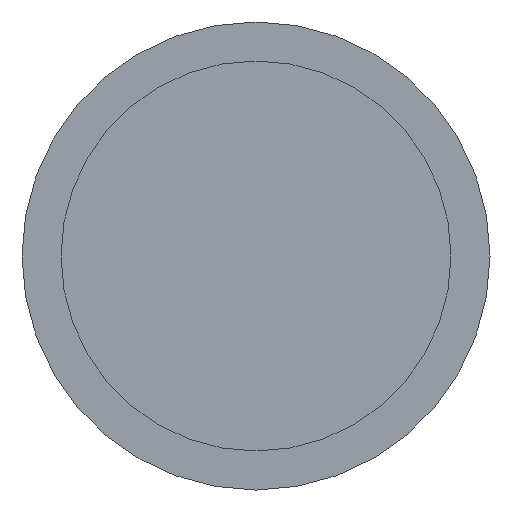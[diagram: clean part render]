
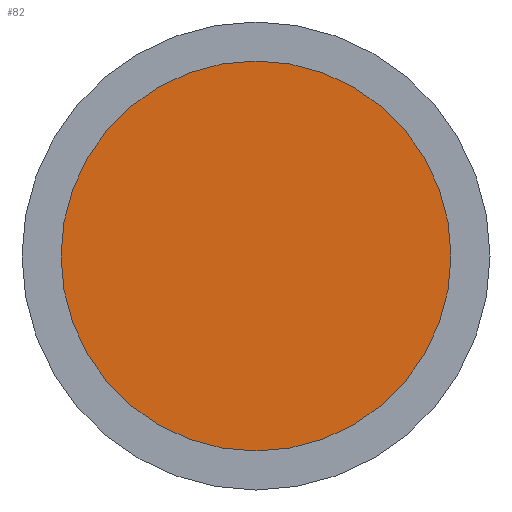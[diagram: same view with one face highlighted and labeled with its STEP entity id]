
A CAD part, front view. The second image highlights one B-rep face of the part: STEP entity #82.
In plain terms, the highlighted planar face has unit normal (0, -1, 0).
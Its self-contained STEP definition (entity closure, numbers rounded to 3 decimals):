
#18=PLANE('',#97);
#30=FACE_OUTER_BOUND('',#42,.T.);
#42=EDGE_LOOP('',(#72));
#48=CIRCLE('',#96,5.);
#54=VERTEX_POINT('',#143);
#60=EDGE_CURVE('',#54,#54,#48,.T.);
#72=ORIENTED_EDGE('',*,*,#60,.T.);
#82=ADVANCED_FACE('',(#30),#18,.F.);
#96=AXIS2_PLACEMENT_3D('',#144,#122,#123);
#97=AXIS2_PLACEMENT_3D('',#145,#124,#125);
#122=DIRECTION('center_axis',(0.,-1.,0.));
#123=DIRECTION('ref_axis',(1.,0.,0.));
#124=DIRECTION('center_axis',(0.,1.,0.));
#125=DIRECTION('ref_axis',(0.,0.,1.));
#143=CARTESIAN_POINT('',(-5.,0.,0.));
#144=CARTESIAN_POINT('Origin',(0.,0.,0.));
#145=CARTESIAN_POINT('Origin',(0.,0.,0.));
